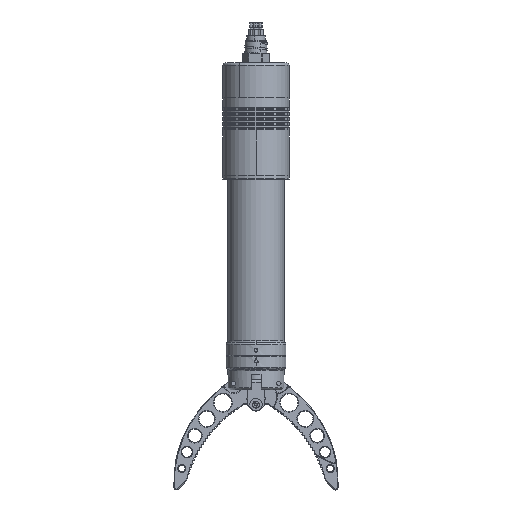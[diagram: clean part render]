
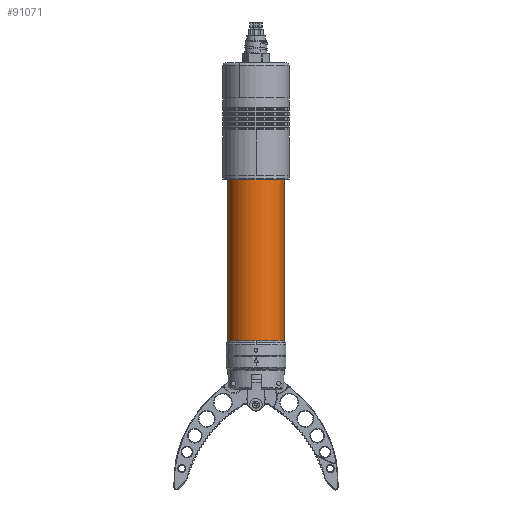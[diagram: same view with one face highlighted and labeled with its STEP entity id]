
A CAD part, top view. The second image highlights one B-rep face of the part: STEP entity #91071.
In plain terms, the highlighted cylindrical face has radius 22.5 mm (diameter 45 mm), a partial arc.
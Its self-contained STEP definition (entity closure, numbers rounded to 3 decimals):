
#2950 = DIRECTION ( 'NONE',  ( 0., 1., 0. ) ) ;
#4734 = EDGE_CURVE ( 'NONE', #100870, #39029, #39632, .T. ) ;
#5781 = DIRECTION ( 'NONE',  ( -1., 0., 0. ) ) ;
#10446 = VECTOR ( 'NONE', #2950, 1000. ) ;
#13471 = DIRECTION ( 'NONE',  ( -1., 0., 0. ) ) ;
#17228 = DIRECTION ( 'NONE',  ( 0., 1., 0. ) ) ;
#19153 = CARTESIAN_POINT ( 'NONE',  ( 0., 34.228, 22.5 ) ) ;
#19293 = DIRECTION ( 'NONE',  ( 0., -1., 0. ) ) ;
#20388 = CARTESIAN_POINT ( 'NONE',  ( 22.5, 60.095, 0. ) ) ;
#21558 = AXIS2_PLACEMENT_3D ( 'NONE', #57765, #17228, #89083 ) ;
#24547 = AXIS2_PLACEMENT_3D ( 'NONE', #58743, #64456, #25904 ) ;
#25904 = DIRECTION ( 'NONE',  ( -1., 0., 0. ) ) ;
#26599 = CARTESIAN_POINT ( 'NONE',  ( 22.5, 34.228, 0. ) ) ;
#26977 = CYLINDRICAL_SURFACE ( 'NONE', #38871, 22.5 ) ;
#27075 = DIRECTION ( 'NONE',  ( 0., 1., 0. ) ) ;
#27241 = CARTESIAN_POINT ( 'NONE',  ( -22.5, 163.503, 0. ) ) ;
#27710 = VERTEX_POINT ( 'NONE', #27241 ) ;
#30231 = ORIENTED_EDGE ( 'NONE', *, *, #90893, .T. ) ;
#31942 = ORIENTED_EDGE ( 'NONE', *, *, #86115, .F. ) ;
#35296 = LINE ( 'NONE', #20388, #86635 ) ;
#38871 = AXIS2_PLACEMENT_3D ( 'NONE', #68932, #92011, #13471 ) ;
#39029 = VERTEX_POINT ( 'NONE', #26599 ) ;
#39632 = CIRCLE ( 'NONE', #21558, 22.5 ) ;
#41964 = CARTESIAN_POINT ( 'NONE',  ( -22.5, 60.095, 0. ) ) ;
#44404 = CARTESIAN_POINT ( 'NONE',  ( -22.5, 34.228, 0. ) ) ;
#51891 = AXIS2_PLACEMENT_3D ( 'NONE', #69444, #19293, #5781 ) ;
#53952 = ORIENTED_EDGE ( 'NONE', *, *, #96640, .T. ) ;
#57765 = CARTESIAN_POINT ( 'NONE',  ( 0., 34.228, 0. ) ) ;
#58550 = VERTEX_POINT ( 'NONE', #44404 ) ;
#58743 = CARTESIAN_POINT ( 'NONE',  ( 0., 34.228, 0. ) ) ;
#64456 = DIRECTION ( 'NONE',  ( 0., 1., 0. ) ) ;
#65467 = ORIENTED_EDGE ( 'NONE', *, *, #4734, .T. ) ;
#68932 = CARTESIAN_POINT ( 'NONE',  ( 0., 60.095, 0. ) ) ;
#69444 = CARTESIAN_POINT ( 'NONE',  ( 0., 163.503, 0. ) ) ;
#83394 = ORIENTED_EDGE ( 'NONE', *, *, #98539, .T. ) ;
#84837 = FACE_OUTER_BOUND ( 'NONE', #86161, .T. ) ;
#86115 = EDGE_CURVE ( 'NONE', #58550, #27710, #88196, .T. ) ;
#86161 = EDGE_LOOP ( 'NONE', ( #83394, #65467, #53952, #30231, #31942 ) ) ;
#86635 = VECTOR ( 'NONE', #27075, 1000. ) ;
#86960 = CARTESIAN_POINT ( 'NONE',  ( 22.5, 163.503, 0. ) ) ;
#88196 = LINE ( 'NONE', #41964, #10446 ) ;
#89083 = DIRECTION ( 'NONE',  ( -1., 0., 0. ) ) ;
#90893 = EDGE_CURVE ( 'NONE', #97332, #27710, #96179, .T. ) ;
#91071 = ADVANCED_FACE ( 'NONE', ( #84837 ), #26977, .T. ) ;
#91736 = CIRCLE ( 'NONE', #24547, 22.5 ) ;
#92011 = DIRECTION ( 'NONE',  ( 0., 1., 0. ) ) ;
#96179 = CIRCLE ( 'NONE', #51891, 22.5 ) ;
#96640 = EDGE_CURVE ( 'NONE', #39029, #97332, #35296, .T. ) ;
#97332 = VERTEX_POINT ( 'NONE', #86960 ) ;
#98539 = EDGE_CURVE ( 'NONE', #58550, #100870, #91736, .T. ) ;
#100870 = VERTEX_POINT ( 'NONE', #19153 ) ;
